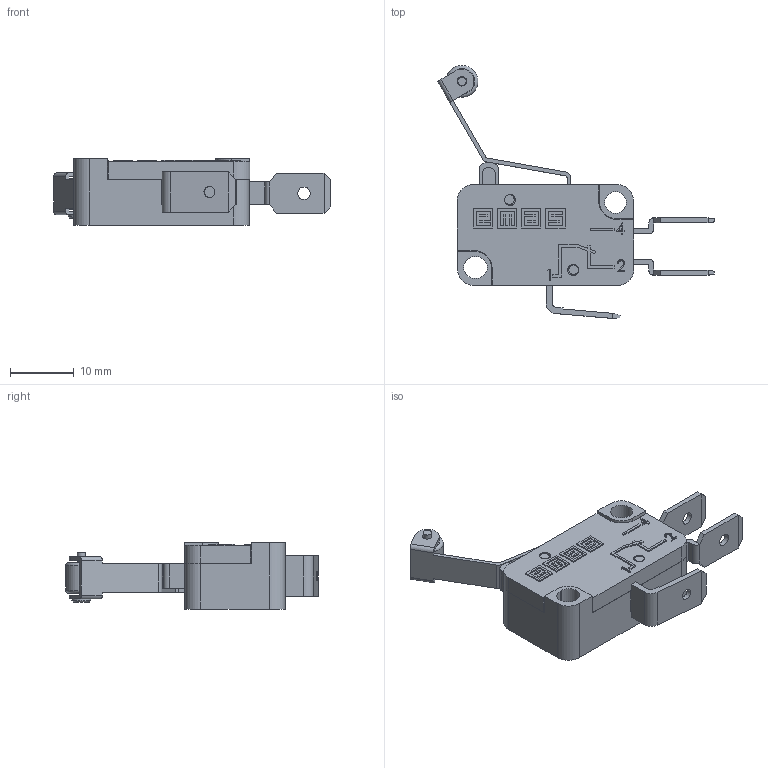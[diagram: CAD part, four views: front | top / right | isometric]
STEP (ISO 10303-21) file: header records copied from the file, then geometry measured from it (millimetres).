
FILE_DESCRIPTION((''),'2; 1');
FILE_NAME('','2026-03-27T16:21:36',(''),(''),'CST STEP Exporter V1.0','Unknown','');
FILE_SCHEMA(('CONFIG_CONTROL_DESIGN'));
Length unit declared in the file: metre
Assembly tree (12 placements, depth 2):
  (unnamed)
    (unnamed)
    (unnamed)
    (unnamed)
    (unnamed)
    (unnamed)
    (unnamed)
    (unnamed)
    (unnamed)
    (unnamed)
    (unnamed)
    (unnamed)
    (unnamed)
Bounding box: 43.43 x 39.69 x 10.4 mm (x, y, z)
Surface area: 7578.9 mm2 (no closed solid volume)
Topology: 0 solids, 12 shells, 306 faces, 1071 edges, 790 vertices
Faces by surface type: plane 250, cylinder 47, extrusion 6, torus 2, cone 1
Full cylindrical faces by diameter (mm): 1.3 x1, 1.5 x3, 1.7 x1, 1.75 x2, 1.95 x2, 3 x1, 3.4 x1, 5 x1
Entity records: 14130 total; most frequent: CARTESIAN_POINT 2328, DIRECTION 1807, ORIENTED_EDGE 1779, EDGE_CURVE 1053, VECTOR 863, LINE 857, VERTEX_POINT 787, AXIS2_PLACEMENT_3D 472
